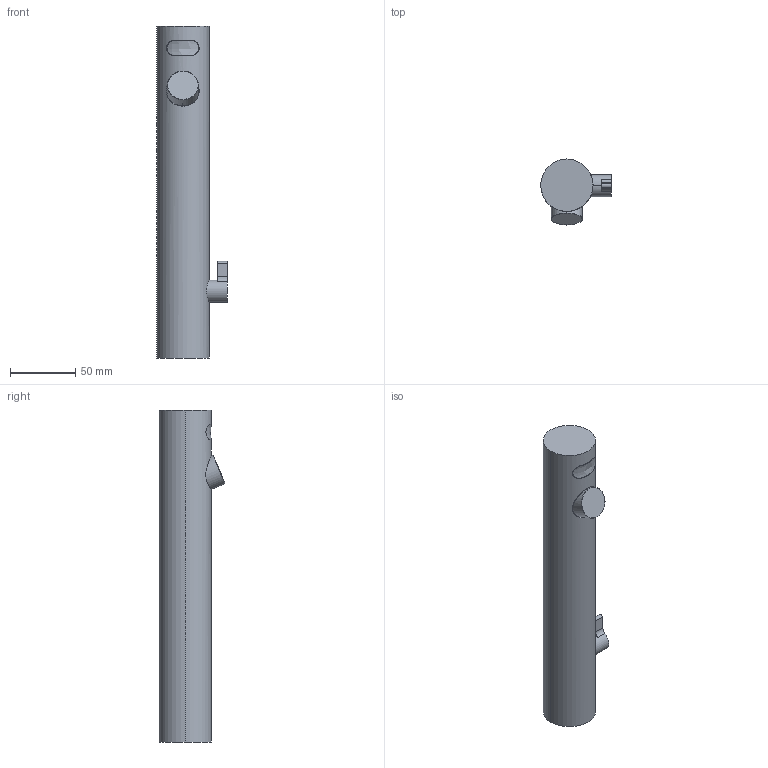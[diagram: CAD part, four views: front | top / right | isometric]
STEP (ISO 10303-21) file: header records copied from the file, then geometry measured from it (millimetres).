
FILE_DESCRIPTION (( 'STEP AP203' ), '1' );
FILE_NAME ('ES1102.STEP', '2016-08-15T10:04:51', ( '' ), ( '' ), 'SwSTEP 2.0', 'SolidWorks 2016', '' );
FILE_SCHEMA (( 'CONFIG_CONTROL_DESIGN' ));
Length unit declared in the file: millimetre
Products named in the file (1): ES1102
Bounding box: 53.98 x 50.42 x 254 mm (x, y, z)
Volume: 318183.8 mm3; surface area: 43805.1 mm2
Topology: 4 solids, 4 shells, 46 faces, 97 edges, 62 vertices
Faces by surface type: cylinder 17, plane 15, bspline 12, torus 2
Entity records: 3468 total; most frequent: CARTESIAN_POINT 2470, ORIENTED_EDGE 194, DIRECTION 175, EDGE_CURVE 97, AXIS2_PLACEMENT_3D 73, VERTEX_POINT 62, EDGE_LOOP 49, FACE_OUTER_BOUND 46
